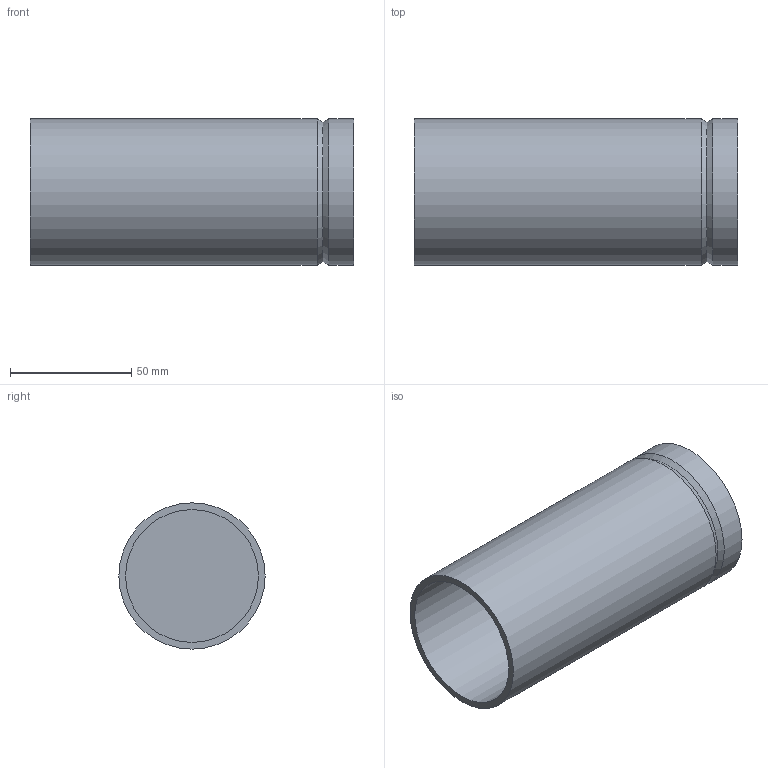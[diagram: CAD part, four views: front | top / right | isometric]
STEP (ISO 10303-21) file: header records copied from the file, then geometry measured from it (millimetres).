
FILE_DESCRIPTION(/* description */ ('VIC END CAP STYLE P540','CAx-IF Rec.Pracs.---Representation and Presentation of Product Manufacturing Information (PMI)---4.0---2014-10-13'),/* implementation_level */ '2;1');
FILE_NAME(/* name */ 'C:\Users\Vjadhav\AppData\Roaming\Autodesk\ApplicationPlugins\Back Up\Victaulic_SS-Vic-Press-TP 304_Cap_Style P540 (VP)\Victaulic_SS-Vic-Press-TP 304_Cap_Style P540 (VP)_2 (50).stp',/* time_stamp */ '2020-08-12T15:35:32+05:00',/* author */ ('cgray'),/* organization */ ('Victaulic'),/* preprocessor_version */ 'ST-DEVELOPER v17.2',/* originating_system */ 'Autodesk Inventor 2019',/* authorisation */ '');
FILE_SCHEMA (('AP242_MANAGED_MODEL_BASED_3D_ENGINEERING_MIM_LF { 1 0 10303 442 1 1 4 }'));
Length unit declared in the file: inch
Products named in the file (1): P540-02.0
Bounding box: 133.35 x 60.33 x 60.33 mm (x, y, z)
Volume: 72664.6 mm3; surface area: 53580.6 mm2
Topology: 1 solids, 1 shells, 8 faces, 19 edges, 14 vertices
Faces by surface type: plane 3, cylinder 3, cone 2
Full cylindrical faces by diameter (mm): 54.788 x1, 60.325 x2
Entity records: 389 total; most frequent: DIRECTION 77, CARTESIAN_POINT 59, ORIENTED_EDGE 38, AXIS2_PLACEMENT_3D 36, EDGE_CURVE 19, CIRCLE 14, VERTEX_POINT 14, STYLED_ITEM 10
